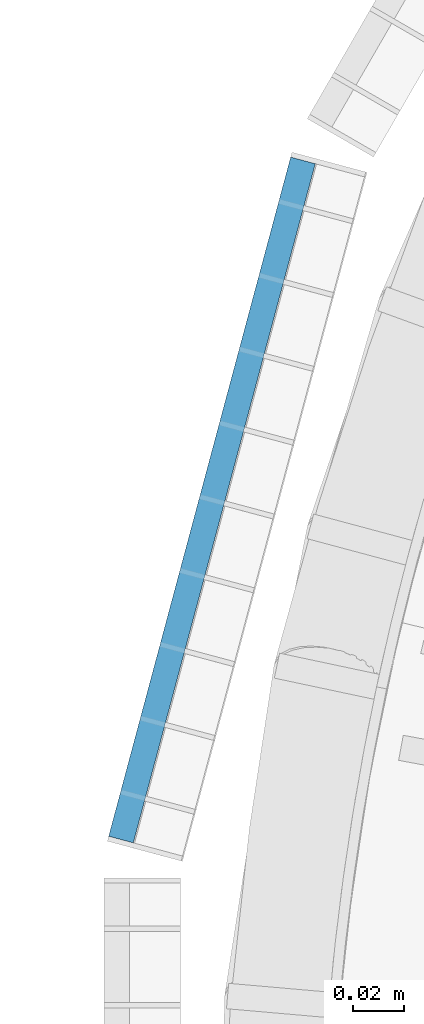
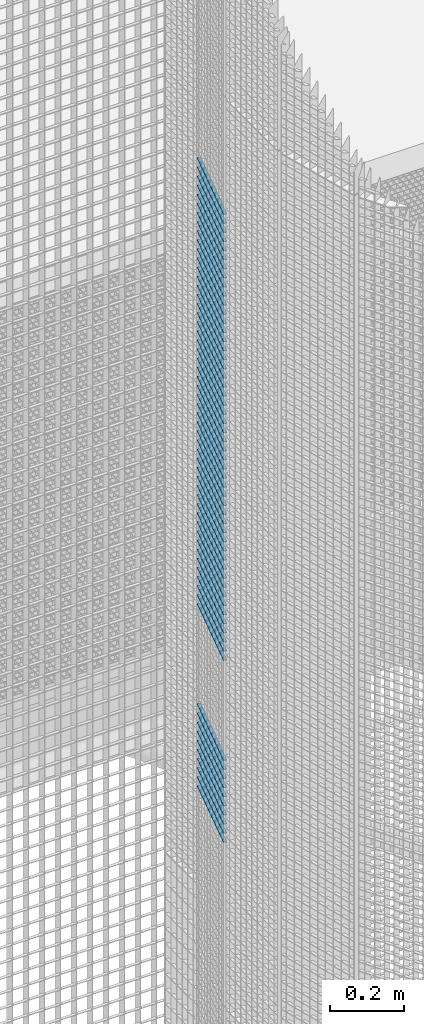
# One storey, part 195 of 1148: 60 beams, 1 element without a shape of its own.
"""IFC2X3 building model written with IfcOpenShell, lengths in millimetres."""

from ifc_helpers import new_model, si_unit, frame, origin_with_axes, origin_2d_with_axis, place, context, subcontext, project, spatial, rectangle, extrude, material, type_object, element, aggregate, save


model = new_model("IFC2X3")

# Units and contexts
model_context = context("Model", 3, precision=1e-05, world=origin_with_axes())
body_context = subcontext(model_context, "Body", "Model", "MODEL_VIEW")
ifc_project = project(units=[si_unit("LENGTHUNIT", "METRE", prefix="MILLI"), si_unit("AREAUNIT", "SQUARE_METRE"), si_unit("VOLUMEUNIT", "CUBIC_METRE"), si_unit("MASSUNIT", "GRAM", prefix="KILO"), si_unit("TIMEUNIT", "SECOND"), si_unit("PLANEANGLEUNIT", "RADIAN"), si_unit("SOLIDANGLEUNIT", "STERADIAN"), si_unit("THERMODYNAMICTEMPERATUREUNIT", "DEGREE_CELSIUS"), si_unit("LUMINOUSINTENSITYUNIT", "LUMEN")], contexts=[model_context])

# Site, building, storey
site_placement = place(None, origin_with_axes())
site = spatial("IfcSite", under=ifc_project, at=site_placement, Name="Undefined", CompositionType="ELEMENT")
building_placement = place(site_placement, origin_with_axes())
building = spatial("IfcBuilding", under=site, at=building_placement, Name="Undefined", CompositionType="ELEMENT")
storey_placement = place(building_placement, origin_with_axes())
storey = spatial("IfcBuildingStorey", under=building, at=storey_placement, Name="Undefined", CompositionType="ELEMENT", Elevation=0.0)

# Assembly, beams
assembly_placement = place(storey_placement, origin_with_axes())
assembly = element("IfcElementAssembly", 1, at=assembly_placement, inside=storey, Name="BORDURE", AssemblyPlace="NOTDEFINED", PredefinedType="NOTDEFINED")
ifc_material = material(Name="STEEL/S235JR")
beam_type = type_object("IfcBeamType", Name="PL2*10", PredefinedType="NOTDEFINED")
beam_1_placement = place(assembly_placement, frame((-1040.30888419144, 421.618038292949, 8610.0), z_axis=(-0.965925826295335, 0.258819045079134, 0.0), x_axis=(-0.258819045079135, -0.965925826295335, 0.0)))
beam_1 = element("IfcBeam", 2, at=beam_1_placement, type_object=beam_type, material=ifc_material, Name="ENTRETOISE", context=body_context, shape_type="SweptSolid", body=[
    extrude(rectangle(XDim=2.0, YDim=10.0, at=origin_2d_with_axis()), frame((275.999999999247, 9.09494701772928e-13, 1.53210777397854e-14), z_axis=(-1.0, 0.0, 0.0), x_axis=(0.0, -1.0, 0.0)), (0.0, 0.0, 1.0), 276.0),
])
beam_2_placement = place(assembly_placement, frame((-1040.30888419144, 421.618038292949, 8580.0), z_axis=(-0.965925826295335, 0.258819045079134, 0.0), x_axis=(-0.258819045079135, -0.965925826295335, 0.0)))
beam_2 = element("IfcBeam", 3, at=beam_2_placement, type_object=beam_type, material=ifc_material, Name="ENTRETOISE", context=body_context, shape_type="SweptSolid", body=[
    extrude(rectangle(XDim=2.0, YDim=10.0, at=origin_2d_with_axis()), frame((275.999999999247, 9.09494701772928e-13, 1.53210777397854e-14), z_axis=(-1.0, 0.0, 0.0), x_axis=(0.0, -1.0, 0.0)), (0.0, 0.0, 1.0), 276.0),
])
beam_3_placement = place(assembly_placement, frame((-1040.30888419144, 421.618038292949, 8550.0), z_axis=(-0.965925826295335, 0.258819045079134, 0.0), x_axis=(-0.258819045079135, -0.965925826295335, 0.0)))
beam_3 = element("IfcBeam", 4, at=beam_3_placement, type_object=beam_type, material=ifc_material, Name="ENTRETOISE", context=body_context, shape_type="SweptSolid", body=[
    extrude(rectangle(XDim=2.0, YDim=10.0, at=origin_2d_with_axis()), frame((275.999999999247, 9.09494701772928e-13, 1.53210777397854e-14), z_axis=(-1.0, 0.0, 0.0), x_axis=(0.0, -1.0, 0.0)), (0.0, 0.0, 1.0), 276.0),
])
beam_4_placement = place(assembly_placement, frame((-1040.30888419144, 421.618038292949, 8520.0), z_axis=(-0.965925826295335, 0.258819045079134, 0.0), x_axis=(-0.258819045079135, -0.965925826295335, 0.0)))
beam_4 = element("IfcBeam", 5, at=beam_4_placement, type_object=beam_type, material=ifc_material, Name="ENTRETOISE", context=body_context, shape_type="SweptSolid", body=[
    extrude(rectangle(XDim=2.0, YDim=10.0, at=origin_2d_with_axis()), frame((275.999999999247, 9.09494701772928e-13, 1.53210777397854e-14), z_axis=(-1.0, 0.0, 0.0), x_axis=(0.0, -1.0, 0.0)), (0.0, 0.0, 1.0), 276.0),
])
beam_5_placement = place(assembly_placement, frame((-1040.30888419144, 421.618038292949, 8490.0), z_axis=(-0.965925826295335, 0.258819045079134, 0.0), x_axis=(-0.258819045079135, -0.965925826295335, 0.0)))
beam_5 = element("IfcBeam", 6, at=beam_5_placement, type_object=beam_type, material=ifc_material, Name="ENTRETOISE", context=body_context, shape_type="SweptSolid", body=[
    extrude(rectangle(XDim=2.0, YDim=10.0, at=origin_2d_with_axis()), frame((275.999999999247, 9.09494701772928e-13, 1.53210777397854e-14), z_axis=(-1.0, 0.0, 0.0), x_axis=(0.0, -1.0, 0.0)), (0.0, 0.0, 1.0), 276.0),
])
beam_6_placement = place(assembly_placement, frame((-1040.30888419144, 421.618038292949, 8460.0), z_axis=(-0.965925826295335, 0.258819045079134, 0.0), x_axis=(-0.258819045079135, -0.965925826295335, 0.0)))
beam_6 = element("IfcBeam", 7, at=beam_6_placement, type_object=beam_type, material=ifc_material, Name="ENTRETOISE", context=body_context, shape_type="SweptSolid", body=[
    extrude(rectangle(XDim=2.0, YDim=10.0, at=origin_2d_with_axis()), frame((275.999999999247, 9.09494701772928e-13, 1.53210777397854e-14), z_axis=(-1.0, 0.0, 0.0), x_axis=(0.0, -1.0, 0.0)), (0.0, 0.0, 1.0), 276.0),
])
beam_7_placement = place(assembly_placement, frame((-1040.30888419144, 421.618038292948, 8430.0), z_axis=(-0.965925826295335, 0.258819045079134, 0.0), x_axis=(-0.258819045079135, -0.965925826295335, 0.0)))
beam_7 = element("IfcBeam", 8, at=beam_7_placement, type_object=beam_type, material=ifc_material, Name="ENTRETOISE", context=body_context, shape_type="SweptSolid", body=[
    extrude(rectangle(XDim=2.0, YDim=10.0, at=origin_2d_with_axis()), frame((275.999999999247, 9.09494701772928e-13, 1.53210777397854e-14), z_axis=(-1.0, 0.0, 0.0), x_axis=(0.0, -1.0, 0.0)), (0.0, 0.0, 1.0), 276.0),
])
beam_8_placement = place(assembly_placement, frame((-1040.30888419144, 421.618038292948, 8400.0), z_axis=(-0.965925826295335, 0.258819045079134, 0.0), x_axis=(-0.258819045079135, -0.965925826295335, 0.0)))
beam_8 = element("IfcBeam", 9, at=beam_8_placement, type_object=beam_type, material=ifc_material, Name="ENTRETOISE", context=body_context, shape_type="SweptSolid", body=[
    extrude(rectangle(XDim=2.0, YDim=10.0, at=origin_2d_with_axis()), frame((275.999999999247, 9.09494701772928e-13, 1.53210777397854e-14), z_axis=(-1.0, 0.0, 0.0), x_axis=(0.0, -1.0, 0.0)), (0.0, 0.0, 1.0), 276.0),
])
beam_9_placement = place(assembly_placement, frame((-1040.30888419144, 421.618038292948, 8370.0), z_axis=(-0.965925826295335, 0.258819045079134, 0.0), x_axis=(-0.258819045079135, -0.965925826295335, 0.0)))
beam_9 = element("IfcBeam", 10, at=beam_9_placement, type_object=beam_type, material=ifc_material, Name="ENTRETOISE", context=body_context, shape_type="SweptSolid", body=[
    extrude(rectangle(XDim=2.0, YDim=10.0, at=origin_2d_with_axis()), frame((275.999999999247, 9.09494701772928e-13, 1.53210777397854e-14), z_axis=(-1.0, 0.0, 0.0), x_axis=(0.0, -1.0, 0.0)), (0.0, 0.0, 1.0), 276.0),
])
beam_10_placement = place(assembly_placement, frame((-1040.30888419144, 421.618038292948, 8340.0), z_axis=(-0.965925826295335, 0.258819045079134, 0.0), x_axis=(-0.258819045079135, -0.965925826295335, 0.0)))
beam_10 = element("IfcBeam", 11, at=beam_10_placement, type_object=beam_type, material=ifc_material, Name="ENTRETOISE", context=body_context, shape_type="SweptSolid", body=[
    extrude(rectangle(XDim=2.0, YDim=10.0, at=origin_2d_with_axis()), frame((275.999999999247, 9.09494701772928e-13, 1.53210777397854e-14), z_axis=(-1.0, 0.0, 0.0), x_axis=(0.0, -1.0, 0.0)), (0.0, 0.0, 1.0), 276.0),
])
beam_11_placement = place(assembly_placement, frame((-1040.30888419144, 421.618038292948, 8310.0), z_axis=(-0.965925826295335, 0.258819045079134, 0.0), x_axis=(-0.258819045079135, -0.965925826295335, 0.0)))
beam_11 = element("IfcBeam", 12, at=beam_11_placement, type_object=beam_type, material=ifc_material, Name="ENTRETOISE", context=body_context, shape_type="SweptSolid", body=[
    extrude(rectangle(XDim=2.0, YDim=10.0, at=origin_2d_with_axis()), frame((275.999999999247, 9.09494701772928e-13, 1.53210777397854e-14), z_axis=(-1.0, 0.0, 0.0), x_axis=(0.0, -1.0, 0.0)), (0.0, 0.0, 1.0), 276.0),
])
beam_12_placement = place(assembly_placement, frame((-1040.30888419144, 421.618038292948, 8280.0), z_axis=(-0.965925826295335, 0.258819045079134, 0.0), x_axis=(-0.258819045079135, -0.965925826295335, 0.0)))
beam_12 = element("IfcBeam", 13, at=beam_12_placement, type_object=beam_type, material=ifc_material, Name="ENTRETOISE", context=body_context, shape_type="SweptSolid", body=[
    extrude(rectangle(XDim=2.0, YDim=10.0, at=origin_2d_with_axis()), frame((275.999999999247, 9.09494701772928e-13, 1.53210777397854e-14), z_axis=(-1.0, 0.0, 0.0), x_axis=(0.0, -1.0, 0.0)), (0.0, 0.0, 1.0), 276.0),
])
beam_13_placement = place(assembly_placement, frame((-1040.30888419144, 421.618038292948, 8250.0), z_axis=(-0.965925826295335, 0.258819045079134, 0.0), x_axis=(-0.258819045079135, -0.965925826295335, 0.0)))
beam_13 = element("IfcBeam", 14, at=beam_13_placement, type_object=beam_type, material=ifc_material, Name="ENTRETOISE", context=body_context, shape_type="SweptSolid", body=[
    extrude(rectangle(XDim=2.0, YDim=10.0, at=origin_2d_with_axis()), frame((275.999999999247, 9.09494701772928e-13, 1.53210777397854e-14), z_axis=(-1.0, 0.0, 0.0), x_axis=(0.0, -1.0, 0.0)), (0.0, 0.0, 1.0), 276.0),
])
beam_14_placement = place(assembly_placement, frame((-1040.30888419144, 421.618038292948, 8220.0), z_axis=(-0.965925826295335, 0.258819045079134, 0.0), x_axis=(-0.258819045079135, -0.965925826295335, 0.0)))
beam_14 = element("IfcBeam", 15, at=beam_14_placement, type_object=beam_type, material=ifc_material, Name="ENTRETOISE", context=body_context, shape_type="SweptSolid", body=[
    extrude(rectangle(XDim=2.0, YDim=10.0, at=origin_2d_with_axis()), frame((275.999999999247, 9.09494701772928e-13, 1.53210777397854e-14), z_axis=(-1.0, 0.0, 0.0), x_axis=(0.0, -1.0, 0.0)), (0.0, 0.0, 1.0), 276.0),
])
beam_15_placement = place(assembly_placement, frame((-1040.30888419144, 421.618038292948, 8190.0), z_axis=(-0.965925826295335, 0.258819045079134, 0.0), x_axis=(-0.258819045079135, -0.965925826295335, 0.0)))
beam_15 = element("IfcBeam", 16, at=beam_15_placement, type_object=beam_type, material=ifc_material, Name="ENTRETOISE", context=body_context, shape_type="SweptSolid", body=[
    extrude(rectangle(XDim=2.0, YDim=10.0, at=origin_2d_with_axis()), frame((275.999999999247, 9.09494701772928e-13, 1.53210777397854e-14), z_axis=(-1.0, 0.0, 0.0), x_axis=(0.0, -1.0, 0.0)), (0.0, 0.0, 1.0), 276.0),
])
beam_16_placement = place(assembly_placement, frame((-1040.30888419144, 421.618038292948, 8160.0), z_axis=(-0.965925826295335, 0.258819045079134, 0.0), x_axis=(-0.258819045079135, -0.965925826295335, 0.0)))
beam_16 = element("IfcBeam", 17, at=beam_16_placement, type_object=beam_type, material=ifc_material, Name="ENTRETOISE", context=body_context, shape_type="SweptSolid", body=[
    extrude(rectangle(XDim=2.0, YDim=10.0, at=origin_2d_with_axis()), frame((275.999999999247, 9.09494701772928e-13, 1.53210777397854e-14), z_axis=(-1.0, 0.0, 0.0), x_axis=(0.0, -1.0, 0.0)), (0.0, 0.0, 1.0), 276.0),
])
beam_17_placement = place(assembly_placement, frame((-1040.30888419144, 421.618038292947, 8130.0), z_axis=(-0.965925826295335, 0.258819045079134, 0.0), x_axis=(-0.258819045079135, -0.965925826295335, 0.0)))
beam_17 = element("IfcBeam", 18, at=beam_17_placement, type_object=beam_type, material=ifc_material, Name="ENTRETOISE", context=body_context, shape_type="SweptSolid", body=[
    extrude(rectangle(XDim=2.0, YDim=10.0, at=origin_2d_with_axis()), frame((275.999999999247, 9.09494701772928e-13, 1.53210777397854e-14), z_axis=(-1.0, 0.0, 0.0), x_axis=(0.0, -1.0, 0.0)), (0.0, 0.0, 1.0), 276.0),
])
beam_18_placement = place(assembly_placement, frame((-1040.30888419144, 421.618038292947, 8100.0), z_axis=(-0.965925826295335, 0.258819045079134, 0.0), x_axis=(-0.258819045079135, -0.965925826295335, 0.0)))
beam_18 = element("IfcBeam", 19, at=beam_18_placement, type_object=beam_type, material=ifc_material, Name="ENTRETOISE", context=body_context, shape_type="SweptSolid", body=[
    extrude(rectangle(XDim=2.0, YDim=10.0, at=origin_2d_with_axis()), frame((275.999999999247, 9.09494701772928e-13, 1.53210777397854e-14), z_axis=(-1.0, 0.0, 0.0), x_axis=(0.0, -1.0, 0.0)), (0.0, 0.0, 1.0), 276.0),
])
beam_19_placement = place(assembly_placement, frame((-1040.30888419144, 421.618038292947, 8070.0), z_axis=(-0.965925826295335, 0.258819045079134, 0.0), x_axis=(-0.258819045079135, -0.965925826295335, 0.0)))
beam_19 = element("IfcBeam", 20, at=beam_19_placement, type_object=beam_type, material=ifc_material, Name="ENTRETOISE", context=body_context, shape_type="SweptSolid", body=[
    extrude(rectangle(XDim=2.0, YDim=10.0, at=origin_2d_with_axis()), frame((275.999999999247, 9.09494701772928e-13, 1.53210777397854e-14), z_axis=(-1.0, 0.0, 0.0), x_axis=(0.0, -1.0, 0.0)), (0.0, 0.0, 1.0), 276.0),
])
beam_20_placement = place(assembly_placement, frame((-1040.30888419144, 421.618038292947, 8040.0), z_axis=(-0.965925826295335, 0.258819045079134, 0.0), x_axis=(-0.258819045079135, -0.965925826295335, 0.0)))
beam_20 = element("IfcBeam", 21, at=beam_20_placement, type_object=beam_type, material=ifc_material, Name="ENTRETOISE", context=body_context, shape_type="SweptSolid", body=[
    extrude(rectangle(XDim=2.0, YDim=10.0, at=origin_2d_with_axis()), frame((275.999999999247, 9.09494701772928e-13, 1.53210777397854e-14), z_axis=(-1.0, 0.0, 0.0), x_axis=(0.0, -1.0, 0.0)), (0.0, 0.0, 1.0), 276.0),
])
beam_21_placement = place(assembly_placement, frame((-1040.30888419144, 421.618038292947, 8010.0), z_axis=(-0.965925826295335, 0.258819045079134, 0.0), x_axis=(-0.258819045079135, -0.965925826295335, 0.0)))
beam_21 = element("IfcBeam", 22, at=beam_21_placement, type_object=beam_type, material=ifc_material, Name="ENTRETOISE", context=body_context, shape_type="SweptSolid", body=[
    extrude(rectangle(XDim=2.0, YDim=10.0, at=origin_2d_with_axis()), frame((275.999999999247, 9.09494701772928e-13, 1.53210777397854e-14), z_axis=(-1.0, 0.0, 0.0), x_axis=(0.0, -1.0, 0.0)), (0.0, 0.0, 1.0), 276.0),
])
beam_22_placement = place(assembly_placement, frame((-1040.30888419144, 421.618038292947, 7980.0), z_axis=(-0.965925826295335, 0.258819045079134, 0.0), x_axis=(-0.258819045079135, -0.965925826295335, 0.0)))
beam_22 = element("IfcBeam", 23, at=beam_22_placement, type_object=beam_type, material=ifc_material, Name="ENTRETOISE", context=body_context, shape_type="SweptSolid", body=[
    extrude(rectangle(XDim=2.0, YDim=10.0, at=origin_2d_with_axis()), frame((275.999999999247, 9.09494701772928e-13, 1.53210777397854e-14), z_axis=(-1.0, 0.0, 0.0), x_axis=(0.0, -1.0, 0.0)), (0.0, 0.0, 1.0), 276.0),
])
beam_23_placement = place(assembly_placement, frame((-1040.30888419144, 421.618038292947, 7950.0), z_axis=(-0.965925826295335, 0.258819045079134, 0.0), x_axis=(-0.258819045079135, -0.965925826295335, 0.0)))
beam_23 = element("IfcBeam", 24, at=beam_23_placement, type_object=beam_type, material=ifc_material, Name="ENTRETOISE", context=body_context, shape_type="SweptSolid", body=[
    extrude(rectangle(XDim=2.0, YDim=10.0, at=origin_2d_with_axis()), frame((275.999999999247, 9.09494701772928e-13, 1.53210777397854e-14), z_axis=(-1.0, 0.0, 0.0), x_axis=(0.0, -1.0, 0.0)), (0.0, 0.0, 1.0), 276.0),
])
beam_24_placement = place(assembly_placement, frame((-1040.30888419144, 421.618038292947, 7920.0), z_axis=(-0.965925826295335, 0.258819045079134, 0.0), x_axis=(-0.258819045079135, -0.965925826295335, 0.0)))
beam_24 = element("IfcBeam", 25, at=beam_24_placement, type_object=beam_type, material=ifc_material, Name="ENTRETOISE", context=body_context, shape_type="SweptSolid", body=[
    extrude(rectangle(XDim=2.0, YDim=10.0, at=origin_2d_with_axis()), frame((275.999999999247, 9.09494701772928e-13, 1.53210777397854e-14), z_axis=(-1.0, 0.0, 0.0), x_axis=(0.0, -1.0, 0.0)), (0.0, 0.0, 1.0), 276.0),
])
beam_25_placement = place(assembly_placement, frame((-1040.30888419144, 421.618038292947, 7890.0), z_axis=(-0.965925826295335, 0.258819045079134, 0.0), x_axis=(-0.258819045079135, -0.965925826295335, 0.0)))
beam_25 = element("IfcBeam", 26, at=beam_25_placement, type_object=beam_type, material=ifc_material, Name="ENTRETOISE", context=body_context, shape_type="SweptSolid", body=[
    extrude(rectangle(XDim=2.0, YDim=10.0, at=origin_2d_with_axis()), frame((275.999999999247, 9.09494701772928e-13, 1.53210777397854e-14), z_axis=(-1.0, 0.0, 0.0), x_axis=(0.0, -1.0, 0.0)), (0.0, 0.0, 1.0), 276.0),
])
beam_26_placement = place(assembly_placement, frame((-1040.30888419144, 421.618038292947, 7860.0), z_axis=(-0.965925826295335, 0.258819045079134, 0.0), x_axis=(-0.258819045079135, -0.965925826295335, 0.0)))
beam_26 = element("IfcBeam", 27, at=beam_26_placement, type_object=beam_type, material=ifc_material, Name="ENTRETOISE", context=body_context, shape_type="SweptSolid", body=[
    extrude(rectangle(XDim=2.0, YDim=10.0, at=origin_2d_with_axis()), frame((275.999999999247, 9.09494701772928e-13, 1.53210777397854e-14), z_axis=(-1.0, 0.0, 0.0), x_axis=(0.0, -1.0, 0.0)), (0.0, 0.0, 1.0), 276.0),
])
beam_27_placement = place(assembly_placement, frame((-1040.30888419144, 421.618038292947, 7830.0), z_axis=(-0.965925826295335, 0.258819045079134, 0.0), x_axis=(-0.258819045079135, -0.965925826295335, 0.0)))
beam_27 = element("IfcBeam", 28, at=beam_27_placement, type_object=beam_type, material=ifc_material, Name="ENTRETOISE", context=body_context, shape_type="SweptSolid", body=[
    extrude(rectangle(XDim=2.0, YDim=10.0, at=origin_2d_with_axis()), frame((275.999999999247, 9.09494701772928e-13, 1.53210777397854e-14), z_axis=(-1.0, 0.0, 0.0), x_axis=(0.0, -1.0, 0.0)), (0.0, 0.0, 1.0), 276.0),
])
beam_28_placement = place(assembly_placement, frame((-1040.30888419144, 421.618038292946, 7800.0), z_axis=(-0.965925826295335, 0.258819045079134, 0.0), x_axis=(-0.258819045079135, -0.965925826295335, 0.0)))
beam_28 = element("IfcBeam", 29, at=beam_28_placement, type_object=beam_type, material=ifc_material, Name="ENTRETOISE", context=body_context, shape_type="SweptSolid", body=[
    extrude(rectangle(XDim=2.0, YDim=10.0, at=origin_2d_with_axis()), frame((275.999999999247, 9.09494701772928e-13, 1.53210777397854e-14), z_axis=(-1.0, 0.0, 0.0), x_axis=(0.0, -1.0, 0.0)), (0.0, 0.0, 1.0), 276.0),
])
beam_29_placement = place(assembly_placement, frame((-1040.30888419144, 421.618038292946, 7770.0), z_axis=(-0.965925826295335, 0.258819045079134, 0.0), x_axis=(-0.258819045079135, -0.965925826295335, 0.0)))
beam_29 = element("IfcBeam", 30, at=beam_29_placement, type_object=beam_type, material=ifc_material, Name="ENTRETOISE", context=body_context, shape_type="SweptSolid", body=[
    extrude(rectangle(XDim=2.0, YDim=10.0, at=origin_2d_with_axis()), frame((275.999999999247, 9.09494701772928e-13, 1.53210777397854e-14), z_axis=(-1.0, 0.0, 0.0), x_axis=(0.0, -1.0, 0.0)), (0.0, 0.0, 1.0), 276.0),
])
beam_30_placement = place(assembly_placement, frame((-1040.30888419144, 421.618038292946, 7740.0), z_axis=(-0.965925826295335, 0.258819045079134, 0.0), x_axis=(-0.258819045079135, -0.965925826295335, 0.0)))
beam_30 = element("IfcBeam", 31, at=beam_30_placement, type_object=beam_type, material=ifc_material, Name="ENTRETOISE", context=body_context, shape_type="SweptSolid", body=[
    extrude(rectangle(XDim=2.0, YDim=10.0, at=origin_2d_with_axis()), frame((275.999999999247, 9.09494701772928e-13, 1.53210777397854e-14), z_axis=(-1.0, 0.0, 0.0), x_axis=(0.0, -1.0, 0.0)), (0.0, 0.0, 1.0), 276.0),
])
beam_31_placement = place(assembly_placement, frame((-1040.30888419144, 421.618038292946, 7710.0), z_axis=(-0.965925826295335, 0.258819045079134, 0.0), x_axis=(-0.258819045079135, -0.965925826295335, 0.0)))
beam_31 = element("IfcBeam", 32, at=beam_31_placement, type_object=beam_type, material=ifc_material, Name="ENTRETOISE", context=body_context, shape_type="SweptSolid", body=[
    extrude(rectangle(XDim=2.0, YDim=10.0, at=origin_2d_with_axis()), frame((275.999999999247, 9.09494701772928e-13, 1.53210777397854e-14), z_axis=(-1.0, 0.0, 0.0), x_axis=(0.0, -1.0, 0.0)), (0.0, 0.0, 1.0), 276.0),
])
beam_32_placement = place(assembly_placement, frame((-1040.30888419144, 421.618038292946, 7680.0), z_axis=(-0.965925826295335, 0.258819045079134, 0.0), x_axis=(-0.258819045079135, -0.965925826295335, 0.0)))
beam_32 = element("IfcBeam", 33, at=beam_32_placement, type_object=beam_type, material=ifc_material, Name="ENTRETOISE", context=body_context, shape_type="SweptSolid", body=[
    extrude(rectangle(XDim=2.0, YDim=10.0, at=origin_2d_with_axis()), frame((275.999999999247, 9.09494701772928e-13, 1.53210777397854e-14), z_axis=(-1.0, 0.0, 0.0), x_axis=(0.0, -1.0, 0.0)), (0.0, 0.0, 1.0), 276.0),
])
beam_33_placement = place(assembly_placement, frame((-1040.30888419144, 421.618038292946, 7650.0), z_axis=(-0.965925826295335, 0.258819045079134, 0.0), x_axis=(-0.258819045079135, -0.965925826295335, 0.0)))
beam_33 = element("IfcBeam", 34, at=beam_33_placement, type_object=beam_type, material=ifc_material, Name="ENTRETOISE", context=body_context, shape_type="SweptSolid", body=[
    extrude(rectangle(XDim=2.0, YDim=10.0, at=origin_2d_with_axis()), frame((275.999999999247, 9.09494701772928e-13, 1.53210777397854e-14), z_axis=(-1.0, 0.0, 0.0), x_axis=(0.0, -1.0, 0.0)), (0.0, 0.0, 1.0), 276.0),
])
beam_34_placement = place(assembly_placement, frame((-1040.30888419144, 421.618038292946, 7620.0), z_axis=(-0.965925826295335, 0.258819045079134, 0.0), x_axis=(-0.258819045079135, -0.965925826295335, 0.0)))
beam_34 = element("IfcBeam", 35, at=beam_34_placement, type_object=beam_type, material=ifc_material, Name="ENTRETOISE", context=body_context, shape_type="SweptSolid", body=[
    extrude(rectangle(XDim=2.0, YDim=10.0, at=origin_2d_with_axis()), frame((275.999999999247, 9.09494701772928e-13, 1.53210777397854e-14), z_axis=(-1.0, 0.0, 0.0), x_axis=(0.0, -1.0, 0.0)), (0.0, 0.0, 1.0), 276.0),
])
beam_35_placement = place(assembly_placement, frame((-1040.30888419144, 421.618038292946, 7590.0), z_axis=(-0.965925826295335, 0.258819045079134, 0.0), x_axis=(-0.258819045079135, -0.965925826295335, 0.0)))
beam_35 = element("IfcBeam", 36, at=beam_35_placement, type_object=beam_type, material=ifc_material, Name="ENTRETOISE", context=body_context, shape_type="SweptSolid", body=[
    extrude(rectangle(XDim=2.0, YDim=10.0, at=origin_2d_with_axis()), frame((275.999999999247, 9.09494701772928e-13, 1.53210777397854e-14), z_axis=(-1.0, 0.0, 0.0), x_axis=(0.0, -1.0, 0.0)), (0.0, 0.0, 1.0), 276.0),
])
beam_36_placement = place(assembly_placement, frame((-1040.30888419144, 421.618038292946, 7560.0), z_axis=(-0.965925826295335, 0.258819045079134, 0.0), x_axis=(-0.258819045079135, -0.965925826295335, 0.0)))
beam_36 = element("IfcBeam", 37, at=beam_36_placement, type_object=beam_type, material=ifc_material, Name="ENTRETOISE", context=body_context, shape_type="SweptSolid", body=[
    extrude(rectangle(XDim=2.0, YDim=10.0, at=origin_2d_with_axis()), frame((275.999999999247, 9.09494701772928e-13, 1.53210777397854e-14), z_axis=(-1.0, 0.0, 0.0), x_axis=(0.0, -1.0, 0.0)), (0.0, 0.0, 1.0), 276.0),
])
beam_37_placement = place(assembly_placement, frame((-1040.30888419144, 421.618038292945, 7530.0), z_axis=(-0.965925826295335, 0.258819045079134, 0.0), x_axis=(-0.258819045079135, -0.965925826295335, 0.0)))
beam_37 = element("IfcBeam", 38, at=beam_37_placement, type_object=beam_type, material=ifc_material, Name="ENTRETOISE", context=body_context, shape_type="SweptSolid", body=[
    extrude(rectangle(XDim=2.0, YDim=10.0, at=origin_2d_with_axis()), frame((275.999999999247, 9.09494701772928e-13, 1.53210777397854e-14), z_axis=(-1.0, 0.0, 0.0), x_axis=(0.0, -1.0, 0.0)), (0.0, 0.0, 1.0), 276.0),
])
beam_38_placement = place(assembly_placement, frame((-1040.30888419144, 421.618038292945, 7500.0), z_axis=(-0.965925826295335, 0.258819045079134, 0.0), x_axis=(-0.258819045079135, -0.965925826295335, 0.0)))
beam_38 = element("IfcBeam", 39, at=beam_38_placement, type_object=beam_type, material=ifc_material, Name="ENTRETOISE", context=body_context, shape_type="SweptSolid", body=[
    extrude(rectangle(XDim=2.0, YDim=10.0, at=origin_2d_with_axis()), frame((275.999999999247, 9.09494701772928e-13, 1.53210777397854e-14), z_axis=(-1.0, 0.0, 0.0), x_axis=(0.0, -1.0, 0.0)), (0.0, 0.0, 1.0), 276.0),
])
beam_39_placement = place(assembly_placement, frame((-1040.30888419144, 421.618038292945, 7470.0), z_axis=(-0.965925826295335, 0.258819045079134, 0.0), x_axis=(-0.258819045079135, -0.965925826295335, 0.0)))
beam_39 = element("IfcBeam", 40, at=beam_39_placement, type_object=beam_type, material=ifc_material, Name="ENTRETOISE", context=body_context, shape_type="SweptSolid", body=[
    extrude(rectangle(XDim=2.0, YDim=10.0, at=origin_2d_with_axis()), frame((275.999999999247, 9.09494701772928e-13, 1.53210777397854e-14), z_axis=(-1.0, 0.0, 0.0), x_axis=(0.0, -1.0, 0.0)), (0.0, 0.0, 1.0), 276.0),
])
beam_40_placement = place(assembly_placement, frame((-1040.30888419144, 421.618038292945, 7440.0), z_axis=(-0.965925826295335, 0.258819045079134, 0.0), x_axis=(-0.258819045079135, -0.965925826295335, 0.0)))
beam_40 = element("IfcBeam", 41, at=beam_40_placement, type_object=beam_type, material=ifc_material, Name="ENTRETOISE", context=body_context, shape_type="SweptSolid", body=[
    extrude(rectangle(XDim=2.0, YDim=10.0, at=origin_2d_with_axis()), frame((275.999999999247, 9.09494701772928e-13, 1.53210777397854e-14), z_axis=(-1.0, 0.0, 0.0), x_axis=(0.0, -1.0, 0.0)), (0.0, 0.0, 1.0), 276.0),
])
beam_41_placement = place(assembly_placement, frame((-1040.30888419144, 421.618038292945, 7410.0), z_axis=(-0.965925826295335, 0.258819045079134, 0.0), x_axis=(-0.258819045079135, -0.965925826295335, 0.0)))
beam_41 = element("IfcBeam", 42, at=beam_41_placement, type_object=beam_type, material=ifc_material, Name="ENTRETOISE", context=body_context, shape_type="SweptSolid", body=[
    extrude(rectangle(XDim=2.0, YDim=10.0, at=origin_2d_with_axis()), frame((275.999999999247, 9.09494701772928e-13, 1.53210777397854e-14), z_axis=(-1.0, 0.0, 0.0), x_axis=(0.0, -1.0, 0.0)), (0.0, 0.0, 1.0), 276.0),
])
beam_42_placement = place(assembly_placement, frame((-1040.30888419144, 421.618038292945, 7380.0), z_axis=(-0.965925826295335, 0.258819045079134, 0.0), x_axis=(-0.258819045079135, -0.965925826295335, 0.0)))
beam_42 = element("IfcBeam", 43, at=beam_42_placement, type_object=beam_type, material=ifc_material, Name="ENTRETOISE", context=body_context, shape_type="SweptSolid", body=[
    extrude(rectangle(XDim=2.0, YDim=10.0, at=origin_2d_with_axis()), frame((275.999999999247, 9.09494701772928e-13, 1.53210777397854e-14), z_axis=(-1.0, 0.0, 0.0), x_axis=(0.0, -1.0, 0.0)), (0.0, 0.0, 1.0), 276.0),
])
beam_43_placement = place(assembly_placement, frame((-1040.30888419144, 421.618038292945, 7350.0), z_axis=(-0.965925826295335, 0.258819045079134, 0.0), x_axis=(-0.258819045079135, -0.965925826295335, 0.0)))
beam_43 = element("IfcBeam", 44, at=beam_43_placement, type_object=beam_type, material=ifc_material, Name="ENTRETOISE", context=body_context, shape_type="SweptSolid", body=[
    extrude(rectangle(XDim=2.0, YDim=10.0, at=origin_2d_with_axis()), frame((275.999999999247, 9.09494701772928e-13, 1.53210777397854e-14), z_axis=(-1.0, 0.0, 0.0), x_axis=(0.0, -1.0, 0.0)), (0.0, 0.0, 1.0), 276.0),
])
beam_44_placement = place(assembly_placement, frame((-1040.30888419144, 421.618038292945, 7320.0), z_axis=(-0.965925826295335, 0.258819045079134, 0.0), x_axis=(-0.258819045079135, -0.965925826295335, 0.0)))
beam_44 = element("IfcBeam", 45, at=beam_44_placement, type_object=beam_type, material=ifc_material, Name="ENTRETOISE", context=body_context, shape_type="SweptSolid", body=[
    extrude(rectangle(XDim=2.0, YDim=10.0, at=origin_2d_with_axis()), frame((275.999999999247, 9.09494701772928e-13, 1.53210777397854e-14), z_axis=(-1.0, 0.0, 0.0), x_axis=(0.0, -1.0, 0.0)), (0.0, 0.0, 1.0), 276.0),
])
beam_45_placement = place(assembly_placement, frame((-1040.30888419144, 421.618038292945, 7290.0), z_axis=(-0.965925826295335, 0.258819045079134, 0.0), x_axis=(-0.258819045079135, -0.965925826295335, 0.0)))
beam_45 = element("IfcBeam", 46, at=beam_45_placement, type_object=beam_type, material=ifc_material, Name="ENTRETOISE", context=body_context, shape_type="SweptSolid", body=[
    extrude(rectangle(XDim=2.0, YDim=10.0, at=origin_2d_with_axis()), frame((275.999999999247, 9.09494701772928e-13, 1.53210777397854e-14), z_axis=(-1.0, 0.0, 0.0), x_axis=(0.0, -1.0, 0.0)), (0.0, 0.0, 1.0), 276.0),
])
beam_46_placement = place(assembly_placement, frame((-1040.30888419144, 421.618038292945, 7260.0), z_axis=(-0.965925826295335, 0.258819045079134, 0.0), x_axis=(-0.258819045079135, -0.965925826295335, 0.0)))
beam_46 = element("IfcBeam", 47, at=beam_46_placement, type_object=beam_type, material=ifc_material, Name="ENTRETOISE", context=body_context, shape_type="SweptSolid", body=[
    extrude(rectangle(XDim=2.0, YDim=10.0, at=origin_2d_with_axis()), frame((275.999999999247, 9.09494701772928e-13, 1.53210777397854e-14), z_axis=(-1.0, 0.0, 0.0), x_axis=(0.0, -1.0, 0.0)), (0.0, 0.0, 1.0), 276.0),
])
beam_47_placement = place(assembly_placement, frame((-1040.30888419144, 421.618038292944, 7230.0), z_axis=(-0.965925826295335, 0.258819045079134, 0.0), x_axis=(-0.258819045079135, -0.965925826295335, 0.0)))
beam_47 = element("IfcBeam", 48, at=beam_47_placement, type_object=beam_type, material=ifc_material, Name="ENTRETOISE", context=body_context, shape_type="SweptSolid", body=[
    extrude(rectangle(XDim=2.0, YDim=10.0, at=origin_2d_with_axis()), frame((275.999999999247, 9.09494701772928e-13, 1.53210777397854e-14), z_axis=(-1.0, 0.0, 0.0), x_axis=(0.0, -1.0, 0.0)), (0.0, 0.0, 1.0), 276.0),
])
beam_48_placement = place(assembly_placement, frame((-1040.30888419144, 421.618038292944, 7200.0), z_axis=(-0.965925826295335, 0.258819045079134, 0.0), x_axis=(-0.258819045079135, -0.965925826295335, 0.0)))
beam_48 = element("IfcBeam", 49, at=beam_48_placement, type_object=beam_type, material=ifc_material, Name="ENTRETOISE", context=body_context, shape_type="SweptSolid", body=[
    extrude(rectangle(XDim=2.0, YDim=10.0, at=origin_2d_with_axis()), frame((275.999999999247, 9.09494701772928e-13, 1.53210777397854e-14), z_axis=(-1.0, 0.0, 0.0), x_axis=(0.0, -1.0, 0.0)), (0.0, 0.0, 1.0), 276.0),
])
beam_49_placement = place(assembly_placement, frame((-1040.30888419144, 421.618038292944, 7170.0), z_axis=(-0.965925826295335, 0.258819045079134, 0.0), x_axis=(-0.258819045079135, -0.965925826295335, 0.0)))
beam_49 = element("IfcBeam", 50, at=beam_49_placement, type_object=beam_type, material=ifc_material, Name="ENTRETOISE", context=body_context, shape_type="SweptSolid", body=[
    extrude(rectangle(XDim=2.0, YDim=10.0, at=origin_2d_with_axis()), frame((275.999999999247, 9.09494701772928e-13, 1.53210777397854e-14), z_axis=(-1.0, 0.0, 0.0), x_axis=(0.0, -1.0, 0.0)), (0.0, 0.0, 1.0), 276.0),
])
beam_50_placement = place(assembly_placement, frame((-1040.30888419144, 421.618038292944, 7140.0), z_axis=(-0.965925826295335, 0.258819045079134, 0.0), x_axis=(-0.258819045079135, -0.965925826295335, 0.0)))
beam_50 = element("IfcBeam", 51, at=beam_50_placement, type_object=beam_type, material=ifc_material, Name="ENTRETOISE", context=body_context, shape_type="SweptSolid", body=[
    extrude(rectangle(XDim=2.0, YDim=10.0, at=origin_2d_with_axis()), frame((275.999999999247, 9.09494701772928e-13, 1.53210777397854e-14), z_axis=(-1.0, 0.0, 0.0), x_axis=(0.0, -1.0, 0.0)), (0.0, 0.0, 1.0), 276.0),
])
beam_51_placement = place(assembly_placement, frame((-1040.30888419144, 421.618038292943, 6720.0), z_axis=(-0.965925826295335, 0.258819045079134, 0.0), x_axis=(-0.258819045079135, -0.965925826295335, 0.0)))
beam_51 = element("IfcBeam", 52, at=beam_51_placement, type_object=beam_type, material=ifc_material, Name="ENTRETOISE", context=body_context, shape_type="SweptSolid", body=[
    extrude(rectangle(XDim=2.0, YDim=10.0, at=origin_2d_with_axis()), frame((275.999999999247, 9.09494701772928e-13, 1.53210777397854e-14), z_axis=(-1.0, 0.0, 0.0), x_axis=(0.0, -1.0, 0.0)), (0.0, 0.0, 1.0), 276.0),
])
beam_52_placement = place(assembly_placement, frame((-1040.30888419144, 421.618038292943, 6690.0), z_axis=(-0.965925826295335, 0.258819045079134, 0.0), x_axis=(-0.258819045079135, -0.965925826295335, 0.0)))
beam_52 = element("IfcBeam", 53, at=beam_52_placement, type_object=beam_type, material=ifc_material, Name="ENTRETOISE", context=body_context, shape_type="SweptSolid", body=[
    extrude(rectangle(XDim=2.0, YDim=10.0, at=origin_2d_with_axis()), frame((275.999999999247, 9.09494701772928e-13, 1.53210777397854e-14), z_axis=(-1.0, 0.0, 0.0), x_axis=(0.0, -1.0, 0.0)), (0.0, 0.0, 1.0), 276.0),
])
beam_53_placement = place(assembly_placement, frame((-1040.30888419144, 421.618038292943, 6750.0), z_axis=(-0.965925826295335, 0.258819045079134, 0.0), x_axis=(-0.258819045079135, -0.965925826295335, 0.0)))
beam_53 = element("IfcBeam", 54, at=beam_53_placement, type_object=beam_type, material=ifc_material, Name="ENTRETOISE", context=body_context, shape_type="SweptSolid", body=[
    extrude(rectangle(XDim=2.0, YDim=10.0, at=origin_2d_with_axis()), frame((275.999999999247, 9.09494701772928e-13, 1.53210777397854e-14), z_axis=(-1.0, 0.0, 0.0), x_axis=(0.0, -1.0, 0.0)), (0.0, 0.0, 1.0), 276.0),
])
beam_54_placement = place(assembly_placement, frame((-1040.30888419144, 421.618038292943, 6660.0), z_axis=(-0.965925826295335, 0.258819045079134, 0.0), x_axis=(-0.258819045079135, -0.965925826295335, 0.0)))
beam_54 = element("IfcBeam", 55, at=beam_54_placement, type_object=beam_type, material=ifc_material, Name="ENTRETOISE", context=body_context, shape_type="SweptSolid", body=[
    extrude(rectangle(XDim=2.0, YDim=10.0, at=origin_2d_with_axis()), frame((275.999999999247, 9.09494701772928e-13, 1.53210777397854e-14), z_axis=(-1.0, 0.0, 0.0), x_axis=(0.0, -1.0, 0.0)), (0.0, 0.0, 1.0), 276.0),
])
beam_55_placement = place(assembly_placement, frame((-1040.30888419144, 421.618038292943, 6630.0), z_axis=(-0.965925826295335, 0.258819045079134, 0.0), x_axis=(-0.258819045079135, -0.965925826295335, 0.0)))
beam_55 = element("IfcBeam", 56, at=beam_55_placement, type_object=beam_type, material=ifc_material, Name="ENTRETOISE", context=body_context, shape_type="SweptSolid", body=[
    extrude(rectangle(XDim=2.0, YDim=10.0, at=origin_2d_with_axis()), frame((275.999999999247, 9.09494701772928e-13, 1.53210777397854e-14), z_axis=(-1.0, 0.0, 0.0), x_axis=(0.0, -1.0, 0.0)), (0.0, 0.0, 1.0), 276.0),
])
beam_56_placement = place(assembly_placement, frame((-1040.30888419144, 421.618038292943, 6780.0), z_axis=(-0.965925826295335, 0.258819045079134, 0.0), x_axis=(-0.258819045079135, -0.965925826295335, 0.0)))
beam_56 = element("IfcBeam", 57, at=beam_56_placement, type_object=beam_type, material=ifc_material, Name="ENTRETOISE", context=body_context, shape_type="SweptSolid", body=[
    extrude(rectangle(XDim=2.0, YDim=10.0, at=origin_2d_with_axis()), frame((275.999999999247, 9.09494701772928e-13, 1.53210777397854e-14), z_axis=(-1.0, 0.0, 0.0), x_axis=(0.0, -1.0, 0.0)), (0.0, 0.0, 1.0), 276.0),
])
beam_57_placement = place(assembly_placement, frame((-1040.30888419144, 421.618038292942, 6600.0), z_axis=(-0.965925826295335, 0.258819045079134, 0.0), x_axis=(-0.258819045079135, -0.965925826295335, 0.0)))
beam_57 = element("IfcBeam", 58, at=beam_57_placement, type_object=beam_type, material=ifc_material, Name="ENTRETOISE", context=body_context, shape_type="SweptSolid", body=[
    extrude(rectangle(XDim=2.0, YDim=10.0, at=origin_2d_with_axis()), frame((275.999999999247, 9.09494701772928e-13, 1.53210777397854e-14), z_axis=(-1.0, 0.0, 0.0), x_axis=(0.0, -1.0, 0.0)), (0.0, 0.0, 1.0), 276.0),
])
beam_58_placement = place(assembly_placement, frame((-1040.30888419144, 421.618038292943, 6810.0), z_axis=(-0.965925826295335, 0.258819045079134, 0.0), x_axis=(-0.258819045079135, -0.965925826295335, 0.0)))
beam_58 = element("IfcBeam", 59, at=beam_58_placement, type_object=beam_type, material=ifc_material, Name="ENTRETOISE", context=body_context, shape_type="SweptSolid", body=[
    extrude(rectangle(XDim=2.0, YDim=10.0, at=origin_2d_with_axis()), frame((275.999999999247, 9.09494701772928e-13, 1.53210777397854e-14), z_axis=(-1.0, 0.0, 0.0), x_axis=(0.0, -1.0, 0.0)), (0.0, 0.0, 1.0), 276.0),
])
beam_59_placement = place(assembly_placement, frame((-1040.30888419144, 421.618038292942, 6570.0), z_axis=(-0.965925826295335, 0.258819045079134, 0.0), x_axis=(-0.258819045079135, -0.965925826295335, 0.0)))
beam_59 = element("IfcBeam", 60, at=beam_59_placement, type_object=beam_type, material=ifc_material, Name="ENTRETOISE", context=body_context, shape_type="SweptSolid", body=[
    extrude(rectangle(XDim=2.0, YDim=10.0, at=origin_2d_with_axis()), frame((275.999999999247, 9.09494701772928e-13, 1.53210777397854e-14), z_axis=(-1.0, 0.0, 0.0), x_axis=(0.0, -1.0, 0.0)), (0.0, 0.0, 1.0), 276.0),
])
beam_60_placement = place(assembly_placement, frame((-1040.30888419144, 421.618038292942, 6540.0), z_axis=(-0.965925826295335, 0.258819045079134, 0.0), x_axis=(-0.258819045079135, -0.965925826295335, 0.0)))
beam_60 = element("IfcBeam", 61, at=beam_60_placement, type_object=beam_type, material=ifc_material, Name="ENTRETOISE", context=body_context, shape_type="SweptSolid", body=[
    extrude(rectangle(XDim=2.0, YDim=10.0, at=origin_2d_with_axis()), frame((275.999999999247, 9.09494701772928e-13, 1.53210777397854e-14), z_axis=(-1.0, 0.0, 0.0), x_axis=(0.0, -1.0, 0.0)), (0.0, 0.0, 1.0), 276.0),
])
aggregate(assembly, [beam_1, beam_2, beam_3, beam_4, beam_5, beam_6, beam_7, beam_8, beam_9, beam_10, beam_11, beam_12, beam_13, beam_14, beam_15, beam_16, beam_17, beam_18, beam_19, beam_20, beam_21, beam_22, beam_23, beam_24, beam_25, beam_26, beam_27, beam_28, beam_29, beam_30, beam_31, beam_32, beam_33, beam_34, beam_35, beam_36, beam_37, beam_38, beam_39, beam_40, beam_41, beam_42, beam_43, beam_44, beam_45, beam_46, beam_47, beam_48, beam_49, beam_50, beam_51, beam_52, beam_53, beam_54, beam_55, beam_56, beam_57, beam_58, beam_59, beam_60])

save(model, "model.ifc")
